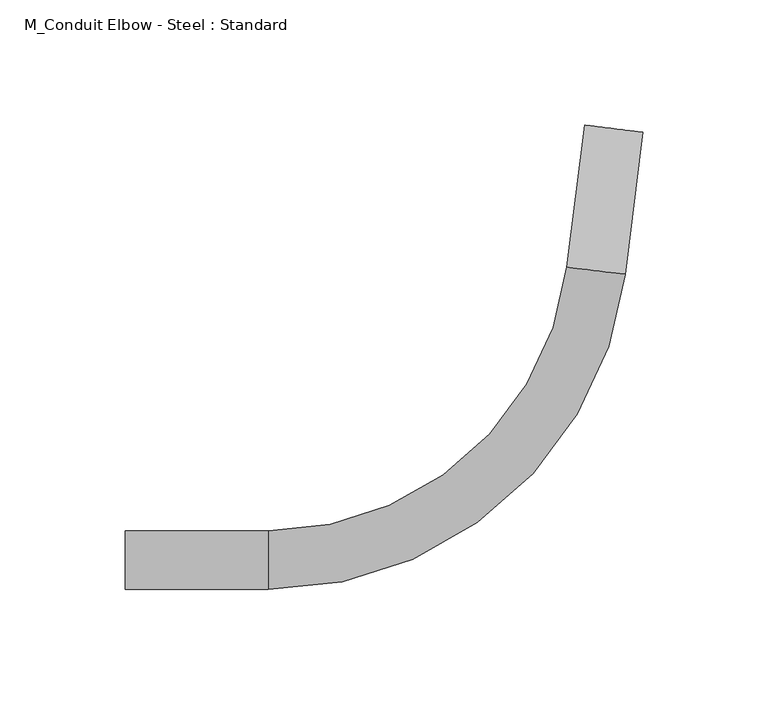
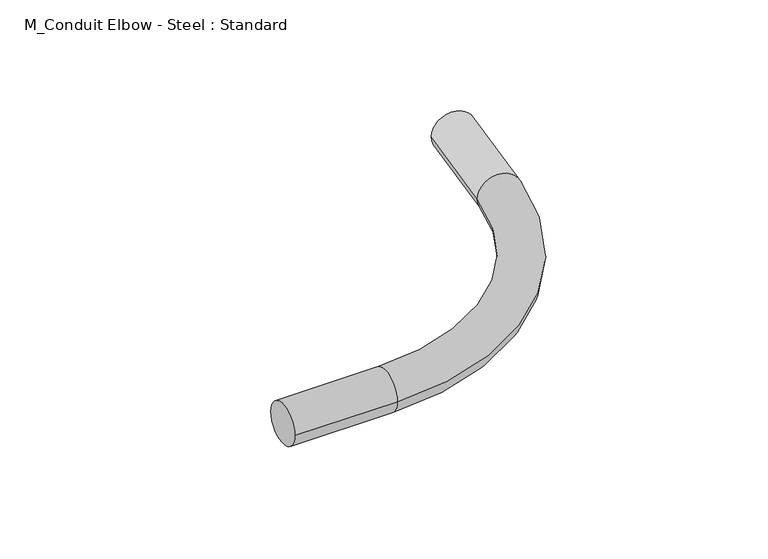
"""IFC4 building model written with IfcOpenShell, lengths in millimetres: cable carrier fitting geometry, M_Conduit Elbow - Steel : Standard."""

from ifc_helpers import new_model, si_unit, point, frame, origin, place, context, project, spatial, circle_curve, ellipse_curve, trimmed, source, transform, mapped, element, save
from ifc_brep_helpers import plane_surface, cylinder_surface, revolved_surface, advanced_brep


def m_conduit_elbow_steel_standard_91f70f14(model_context):
    return source(origin(), model_context, "Body", "AdvancedBrep", [
        advanced_brep(
        [(-173.6458617, -11.7094, 0.0), (-173.6458617, 11.7094, 0.0), (-116.4958617, -11.7094, 0.0), (-116.4958617, 11.7094, 0.0), (2.6526662, 117.0528052, 0.0), (25.895011, 114.1833799, 0.0), (32.8974046, 170.902768, 0.0), (9.6550598, 173.7721933, 0.0)],
        [
            (0, 1, circle_curve(frame((-173.6458617, 0.0, 0.0), z_axis=(-1.0, 0.0, 0.0), x_axis=(0.0, 1.0, 0.0)), 11.7094)),
            (1, 0, circle_curve(frame((-173.6458617, 0.0, 0.0), z_axis=(-1.0, 0.0, 0.0), x_axis=(0.0, 1.0, 0.0)), 11.7094)),
            (0, 2),
            (2, 3, circle_curve(frame((-116.4958617, 0.0, 0.0), z_axis=(-1.0, 0.0, 0.0), x_axis=(0.0, 1.0, 0.0)), 11.7094)),
            (3, 1),
            (3, 2, circle_curve(frame((-116.4958617, 0.0, 0.0), z_axis=(-1.0, 0.0, 0.0), x_axis=(0.0, 1.0, 0.0)), 11.7094)),
            (4, 3, circle_curve(frame((-116.4958617, 131.7625, 0.0), z_axis=(0.0, 0.0, -1.0), x_axis=(0.0, -1.0, 0.0)), 120.0531)),
            (2, 5, circle_curve(frame((-116.4958617, 131.7625, 0.0), z_axis=(0.0, 0.0, 1.0), x_axis=(0.0, -1.0, 0.0)), 143.4719)),
            (5, 4, circle_curve(frame((14.2738386, 115.6180926, 0.0), z_axis=(-0.12252657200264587, -0.9924652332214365, 0.0), x_axis=(-0.9924652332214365, 0.12252657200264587, 0.0)), 11.7094)),
            (4, 5, circle_curve(frame((14.2738386, 115.6180926, 0.0), z_axis=(-0.12252657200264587, -0.9924652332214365, 0.0), x_axis=(-0.9924652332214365, 0.12252657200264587, 0.0)), 11.7094)),
            (6, 7, circle_curve(frame((21.2762322, 172.3374806, 0.0), z_axis=(0.12252657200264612, 0.9924652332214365, 0.0), x_axis=(-0.9924652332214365, 0.12252657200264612, 0.0)), 11.7094)),
            (7, 6, circle_curve(frame((21.2762322, 172.3374806, 0.0), z_axis=(0.12252657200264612, 0.9924652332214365, 0.0), x_axis=(-0.9924652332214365, 0.12252657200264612, 0.0)), 11.7094)),
            (5, 6),
            (7, 4),
        ],
        [
            plane_surface(frame((-173.6458617, 0.0, 0.0), z_axis=(-1.0, 0.0, 0.0), x_axis=(0.0, 0.0, 1.0))),
            cylinder_surface(frame((-173.6458617, 0.0, 0.0), z_axis=(-1.0, 0.0, 0.0), x_axis=(0.0, 1.0, 0.0)), 11.7094),
            revolved_surface(trimmed(ellipse_curve(frame((-116.4958617, 0.0, 0.0), z_axis=(-1.0, 0.0, 0.0), x_axis=(0.0, 1.0, 0.0)), 11.7094, 11.7094), [point((-116.4958617, -11.7094, 0.0))], [point((-116.4958617, 11.7094, 0.0))], True, "CARTESIAN"), (-116.4958617, 131.7625, 0.0), (0.0, 0.0, 1.0)),
            revolved_surface(trimmed(ellipse_curve(frame((-116.4958617, 0.0, 0.0), z_axis=(-1.0, 0.0, 0.0), x_axis=(0.0, 1.0, 0.0)), 11.7094, 11.7094), [point((-116.4958617, 11.7094, 0.0))], [point((-116.4958617, -11.7094, 0.0))], True, "CARTESIAN"), (-116.4958617, 131.7625, 0.0), (0.0, 0.0, 1.0)),
            plane_surface(frame((21.2762322, 172.3374806, 0.0), z_axis=(0.12252657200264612, 0.9924652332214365, 0.0), x_axis=(0.0, 0.0, 1.0))),
            cylinder_surface(frame((14.2738386, 115.6180926, 0.0), z_axis=(-0.12252657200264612, -0.9924652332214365, 0.0), x_axis=(-0.9924652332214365, 0.12252657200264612, 0.0)), 11.7094),
        ],
        [
            (0, [[1, 2]]),
            (1, [[-1, 3, 4, 5]]),
            (1, [[-2, -5, 6, -3]]),
            (2, [[7, -4, 8, 9]]),
            (3, [[-8, -6, -7, 10]]),
            (4, [[11, 12]]),
            (5, [[-9, 13, -12, 14]]),
            (5, [[-10, -14, -11, -13]]),
        ],
    ),
    ])


if __name__ == "__main__":
    model = new_model("IFC4")
    model_context = context("Model", 3, world=origin())
    ifc_project = project(units=[si_unit("LENGTHUNIT", "METRE", prefix="MILLI")], contexts=[model_context])
    site = spatial("IfcSite", under=ifc_project)
    building = spatial("IfcBuilding", under=site)
    placement = place(None, origin())
    m_conduit_elbow_steel_standard_shape = m_conduit_elbow_steel_standard_91f70f14(model_context)
    element("IfcCableCarrierFitting", 1, ObjectType="M_Conduit Elbow - Steel : Standard", at=placement, inside=building, context=model_context, shape_type="MappedRepresentation", body=[
        mapped(m_conduit_elbow_steel_standard_shape, transform((0.0, 0.0, 0.0), x_axis=(1.0, 0.0, 0.0), y_axis=(0.0, 1.0, 0.0), z_axis=(0.0, 0.0, 1.0))),
    ])
    save(model, "model.ifc")
